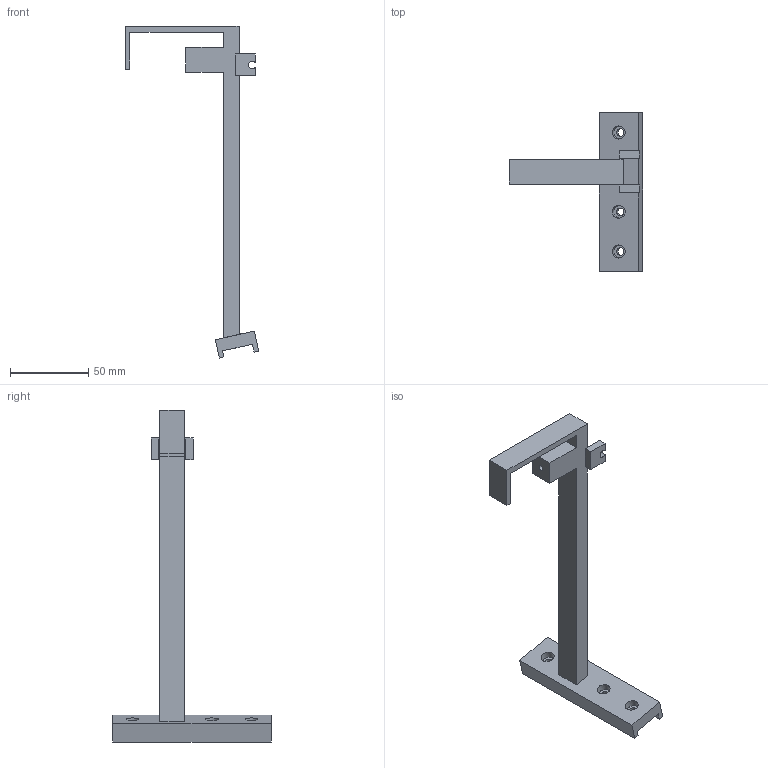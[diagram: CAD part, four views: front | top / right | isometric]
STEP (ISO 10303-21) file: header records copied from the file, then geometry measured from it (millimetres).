
FILE_DESCRIPTION(('Open CASCADE Model'),'2;1');
FILE_NAME('Open CASCADE Shape Model','2026-10-15T21:05:19',('Author'),( 'Open CASCADE'),'Open CASCADE STEP processor 7.9','Open CASCADE 7.9' ,'Unknown');
FILE_SCHEMA(('AUTOMOTIVE_DESIGN { 1 0 10303 214 1 1 1 1 }'));
Length unit declared in the file: millimetre
Products named in the file (4): Open CASCADE STEP translator 7.9 2; Open CASCADE STEP translator 7.9 2.1; Open CASCADE STEP translator 7.9 2.2; Open CASCADE STEP translator 7.9 2.3
Assembly tree (3 placements, depth 2):
  Open CASCADE STEP translator 7.9 2
    Open CASCADE STEP translator 7.9 2.1
    Open CASCADE STEP translator 7.9 2.2
    Open CASCADE STEP translator 7.9 2.3
Bounding box: 85.52 x 101.6 x 212.56 mm (x, y, z)
Volume: 67147.3 mm3; surface area: 26492.4 mm2
Topology: 3 solids, 3 shells, 49 faces, 117 edges, 78 vertices
Faces by surface type: plane 40, cylinder 9
Full cylindrical faces by diameter (mm): 3.4 x1, 4.8 x3, 8.4 x3
Entity records: 3027 total; most frequent: CARTESIAN_POINT 578, DIRECTION 444, LINE 297, VECTOR 297, ORIENTED_EDGE 234, PCURVE 234, DEFINITIONAL_REPRESENTATION 234, EDGE_CURVE 117
